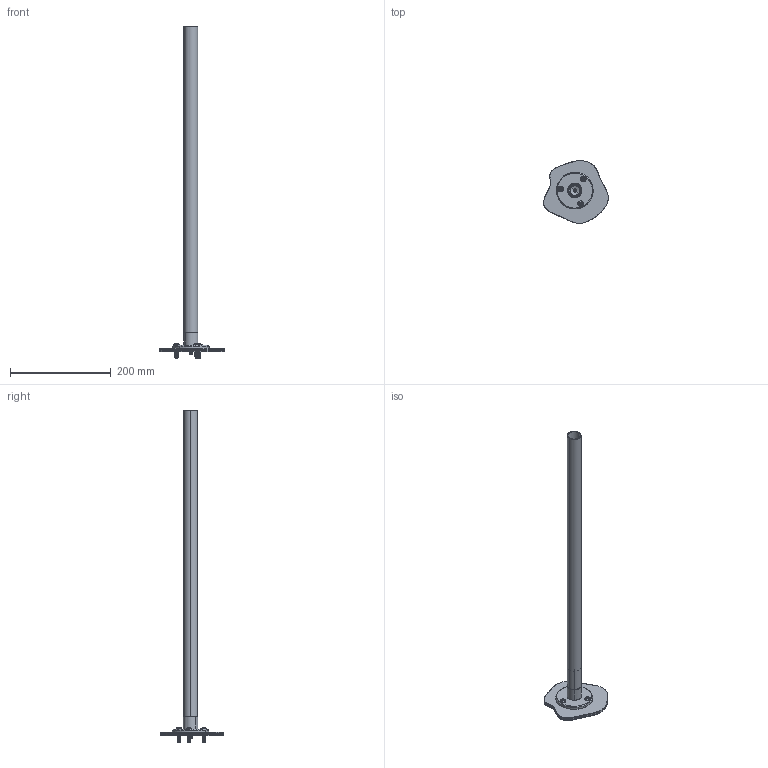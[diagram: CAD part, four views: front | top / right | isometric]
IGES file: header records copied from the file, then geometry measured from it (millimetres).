
Start section: SolidWorks IGES file using analytic representation for surfaces
Global section: file name: \\SERVER3\Design\_NEWDE~1\_DESIG~1\AAI\MODULA~1\SOLIDW~1\DEMONS~1\25DBF2~1.ASS\MODULA~1\497A0~1.TUB\TUBETO~2\Threaded End to Flange to Perpendicular Surface Connection.IGS; native system: SolidWorks 2013; preprocessor: SolidWorks 2013; author: tbraun; date: 130819.105502; units: inch
Bounding box: 128.66 x 124.75 x 660.4 mm (x, y, z)
Surface area: 199911.4 mm2 (no closed solid volume)
Topology: 0 solids, 0 shells, 890 faces, 12640 edges, 12637 vertices
Faces by surface type: revolution 798, bspline 92
